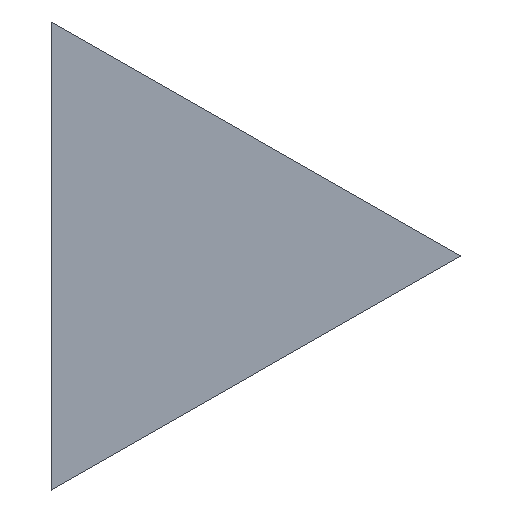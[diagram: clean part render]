
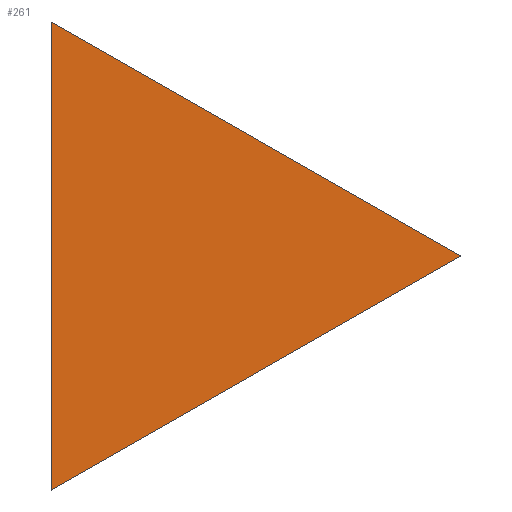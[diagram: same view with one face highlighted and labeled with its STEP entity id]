
A CAD part, top view. The second image highlights one B-rep face of the part: STEP entity #261.
In plain terms, the highlighted planar face has unit normal (0, 0, 1).
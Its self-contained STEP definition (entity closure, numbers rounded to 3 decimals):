
#24 = VERTEX_POINT('',#25);
#25 = CARTESIAN_POINT('',(-3.,-50.5,13.01));
#32 = PLANE('',#33);
#33 = AXIS2_PLACEMENT_3D('',#34,#35,#36);
#34 = CARTESIAN_POINT('',(-3.,-50.5,13.002));
#35 = DIRECTION('',(-1.,0.,0.));
#36 = DIRECTION('',(0.,1.,0.));
#44 = PLANE('',#45);
#45 = AXIS2_PLACEMENT_3D('',#46,#47,#48);
#46 = CARTESIAN_POINT('',(4.,-46.5,13.002));
#47 = DIRECTION('',(0.496,-0.868,0.));
#48 = DIRECTION('',(-0.868,-0.496,0.));
#56 = EDGE_CURVE('',#24,#57,#59,.T.);
#57 = VERTEX_POINT('',#58);
#58 = CARTESIAN_POINT('',(-3.,-42.5,13.01));
#59 = SURFACE_CURVE('',#60,(#64,#71),.PCURVE_S1.);
#60 = LINE('',#61,#62);
#61 = CARTESIAN_POINT('',(-3.,-50.5,13.01));
#62 = VECTOR('',#63,1.);
#63 = DIRECTION('',(0.,1.,0.));
#64 = PCURVE('',#32,#65);
#65 = DEFINITIONAL_REPRESENTATION('',(#66),#70);
#66 = LINE('',#67,#68);
#67 = CARTESIAN_POINT('',(0.,-0.008));
#68 = VECTOR('',#69,1.);
#69 = DIRECTION('',(1.,0.));
#70 = ( GEOMETRIC_REPRESENTATION_CONTEXT(2) 
PARAMETRIC_REPRESENTATION_CONTEXT() REPRESENTATION_CONTEXT('2D SPACE',''
  ) );
#71 = PCURVE('',#72,#77);
#72 = PLANE('',#73);
#73 = AXIS2_PLACEMENT_3D('',#74,#75,#76);
#74 = CARTESIAN_POINT('',(-0.661,-46.5,13.01));
#75 = DIRECTION('',(-0.,-0.,-1.));
#76 = DIRECTION('',(-1.,0.,0.));
#77 = DEFINITIONAL_REPRESENTATION('',(#78),#82);
#78 = LINE('',#79,#80);
#79 = CARTESIAN_POINT('',(2.339,-4.));
#80 = VECTOR('',#81,1.);
#81 = DIRECTION('',(0.,1.));
#82 = ( GEOMETRIC_REPRESENTATION_CONTEXT(2) 
PARAMETRIC_REPRESENTATION_CONTEXT() REPRESENTATION_CONTEXT('2D SPACE',''
  ) );
#100 = PLANE('',#101);
#101 = AXIS2_PLACEMENT_3D('',#102,#103,#104);
#102 = CARTESIAN_POINT('',(-3.,-42.5,13.002));
#103 = DIRECTION('',(0.496,0.868,-0.));
#104 = DIRECTION('',(0.868,-0.496,0.));
#142 = EDGE_CURVE('',#57,#143,#145,.T.);
#143 = VERTEX_POINT('',#144);
#144 = CARTESIAN_POINT('',(4.,-46.5,13.01));
#145 = SURFACE_CURVE('',#146,(#150,#157),.PCURVE_S1.);
#146 = LINE('',#147,#148);
#147 = CARTESIAN_POINT('',(-3.,-42.5,13.01));
#148 = VECTOR('',#149,1.);
#149 = DIRECTION('',(0.868,-0.496,0.));
#150 = PCURVE('',#100,#151);
#151 = DEFINITIONAL_REPRESENTATION('',(#152),#156);
#152 = LINE('',#153,#154);
#153 = CARTESIAN_POINT('',(0.,-0.008));
#154 = VECTOR('',#155,1.);
#155 = DIRECTION('',(1.,0.));
#156 = ( GEOMETRIC_REPRESENTATION_CONTEXT(2) 
PARAMETRIC_REPRESENTATION_CONTEXT() REPRESENTATION_CONTEXT('2D SPACE',''
  ) );
#157 = PCURVE('',#72,#158);
#158 = DEFINITIONAL_REPRESENTATION('',(#159),#163);
#159 = LINE('',#160,#161);
#160 = CARTESIAN_POINT('',(2.339,4.));
#161 = VECTOR('',#162,1.);
#162 = DIRECTION('',(-0.868,-0.496));
#163 = ( GEOMETRIC_REPRESENTATION_CONTEXT(2) 
PARAMETRIC_REPRESENTATION_CONTEXT() REPRESENTATION_CONTEXT('2D SPACE',''
  ) );
#213 = EDGE_CURVE('',#143,#24,#214,.T.);
#214 = SURFACE_CURVE('',#215,(#219,#226),.PCURVE_S1.);
#215 = LINE('',#216,#217);
#216 = CARTESIAN_POINT('',(4.,-46.5,13.01));
#217 = VECTOR('',#218,1.);
#218 = DIRECTION('',(-0.868,-0.496,0.));
#219 = PCURVE('',#44,#220);
#220 = DEFINITIONAL_REPRESENTATION('',(#221),#225);
#221 = LINE('',#222,#223);
#222 = CARTESIAN_POINT('',(0.,-0.008));
#223 = VECTOR('',#224,1.);
#224 = DIRECTION('',(1.,0.));
#225 = ( GEOMETRIC_REPRESENTATION_CONTEXT(2) 
PARAMETRIC_REPRESENTATION_CONTEXT() REPRESENTATION_CONTEXT('2D SPACE',''
  ) );
#226 = PCURVE('',#72,#227);
#227 = DEFINITIONAL_REPRESENTATION('',(#228),#232);
#228 = LINE('',#229,#230);
#229 = CARTESIAN_POINT('',(-4.661,0.));
#230 = VECTOR('',#231,1.);
#231 = DIRECTION('',(0.868,-0.496));
#232 = ( GEOMETRIC_REPRESENTATION_CONTEXT(2) 
PARAMETRIC_REPRESENTATION_CONTEXT() REPRESENTATION_CONTEXT('2D SPACE',''
  ) );
#261 = ADVANCED_FACE('',(#262),#72,.F.);
#262 = FACE_BOUND('',#263,.F.);
#263 = EDGE_LOOP('',(#264,#265,#266));
#264 = ORIENTED_EDGE('',*,*,#56,.T.);
#265 = ORIENTED_EDGE('',*,*,#142,.T.);
#266 = ORIENTED_EDGE('',*,*,#213,.T.);
